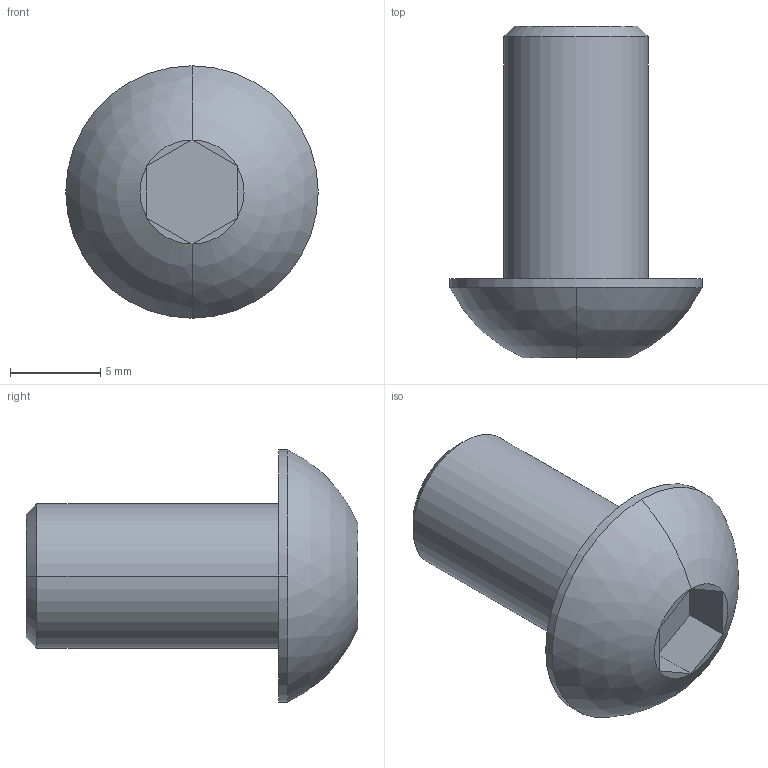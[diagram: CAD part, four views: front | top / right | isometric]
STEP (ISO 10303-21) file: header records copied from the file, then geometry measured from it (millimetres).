
FILE_DESCRIPTION((''),'2;1');
FILE_NAME('VTBEI0814','2002-12-27T',('Lipro doo'),('Lipro d.o.o.'),'PRO/ENGINEER BY PARAMETRIC TECHNOLOGY CORPORATION, 2001150','PRO/ENGINEER BY PARAMETRIC TECHNOLOGY CORPORATION, 2001150','');
FILE_SCHEMA(('CONFIG_CONTROL_DESIGN'));
Length unit declared in the file: millimetre
Products named in the file (1): VTBEI0814
Bounding box: 14 x 18.4 x 14 mm (x, y, z)
Volume: 1102.4 mm3; surface area: 1078 mm2
Topology: 1 solids, 2 shells, 25 faces, 50 edges, 28 vertices
Faces by surface type: plane 15, cylinder 6, cone 2, sphere 2
Entity records: 684 total; most frequent: DIRECTION 126, CARTESIAN_POINT 104, ORIENTED_EDGE 96, AXIS2_PLACEMENT_3D 50, EDGE_CURVE 50, VERTEX_POINT 28, VECTOR 26, LINE 26
